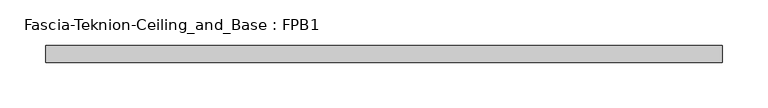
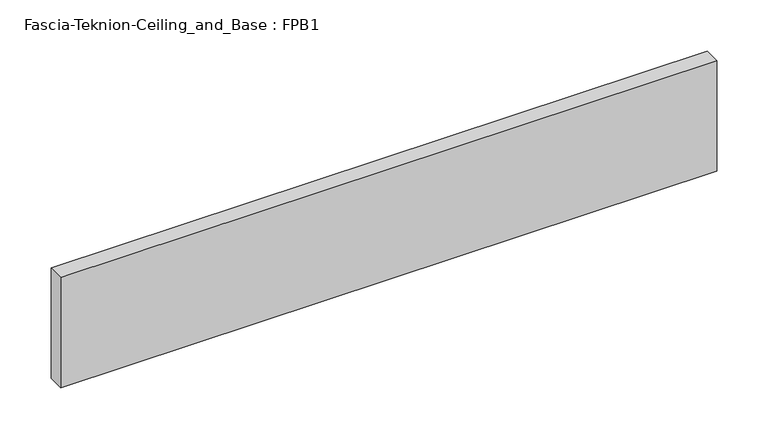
"""IFC4 building model written with IfcOpenShell, lengths in millimetres: proxy geometry, Fascia-Teknion-Ceiling_and_Base : FPB1."""

from ifc_helpers import new_model, si_unit, origin, origin_with_axes, place, context, project, spatial, polyline, outline, extrude, source, transform, mapped, element, save


def fascia_teknion_ceiling_and_base_fpb1_d08a77d9(model_context):
    return source(origin(), model_context, "Body", "SweptSolid", [
        extrude(outline(polyline([(371.4253906, 0.0), (371.4253906, -19.05), (-371.4253906, -19.05), (-371.4253906, 0.0), (371.4253906, 0.0)])), origin_with_axes(), (0.0, 0.0, 1.0), 132.08),
    ])


if __name__ == "__main__":
    model = new_model("IFC4")
    model_context = context("Model", 3, world=origin())
    ifc_project = project(units=[si_unit("LENGTHUNIT", "METRE", prefix="MILLI")], contexts=[model_context])
    site = spatial("IfcSite", under=ifc_project)
    building = spatial("IfcBuilding", under=site)
    placement = place(None, origin())
    fascia_teknion_ceiling_and_base_fpb1_shape = fascia_teknion_ceiling_and_base_fpb1_d08a77d9(model_context)
    element("IfcBuildingElementProxy", 1, Name="Fascia-Teknion-Ceiling_and_Base : FPB1", ObjectType="Fascia-Teknion-Ceiling_and_Base : FPB1", at=placement, inside=building, context=model_context, shape_type="MappedRepresentation", body=[
        mapped(fascia_teknion_ceiling_and_base_fpb1_shape, transform((0.0, 0.0, 0.0), x_axis=(1.0, 0.0, 0.0), y_axis=(0.0, 1.0, 0.0), z_axis=(0.0, 0.0, 1.0))),
    ])
    save(model, "model.ifc")
